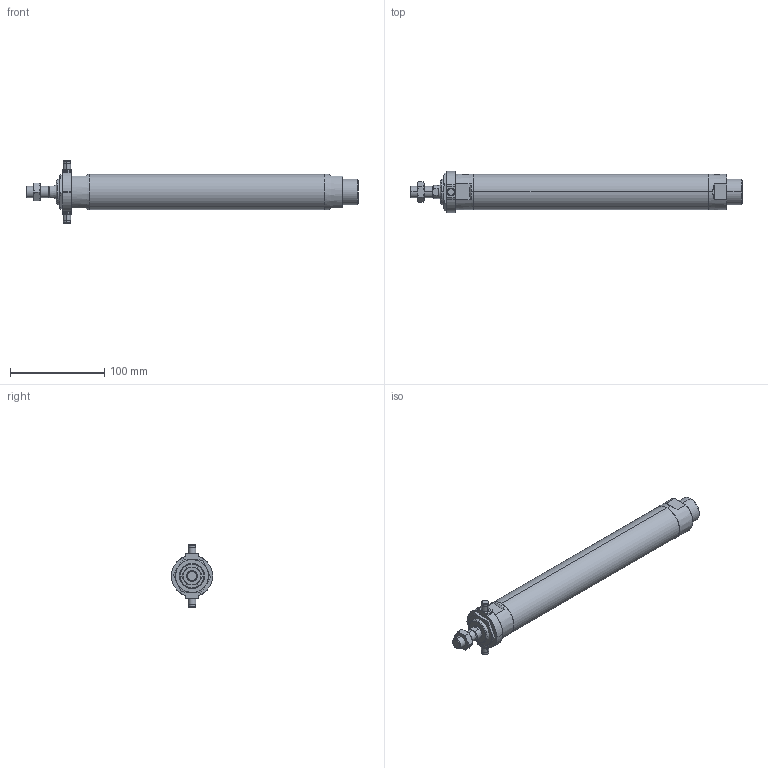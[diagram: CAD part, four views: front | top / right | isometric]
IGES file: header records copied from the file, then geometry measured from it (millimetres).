
Start section: SolidWorks IGES file using analytic representation for surfaces
Global section: file name: C:\Users\Toshiba\Desktop\J#2-32-200-T.IGS; native system: SolidWorks 2014; preprocessor: SolidWorks 2014; author: Toshiba; date: 160308.154406; units: millimetre
Bounding box: 353 x 44 x 66 mm (x, y, z)
Surface area: 48815.5 mm2 (no closed solid volume)
Topology: 0 solids, 0 shells, 133 faces, 2156 edges, 2152 vertices
Faces by surface type: bspline 67, revolution 66
